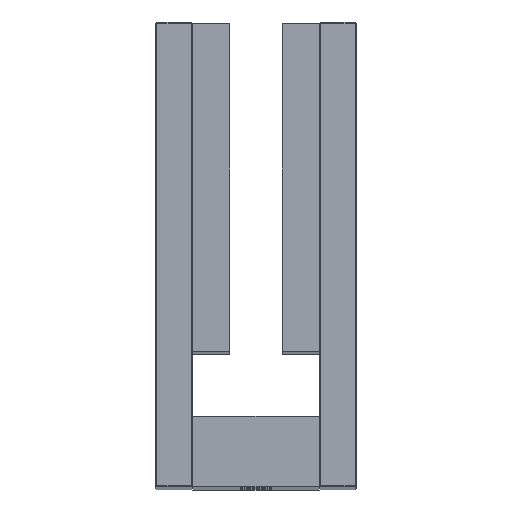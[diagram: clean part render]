
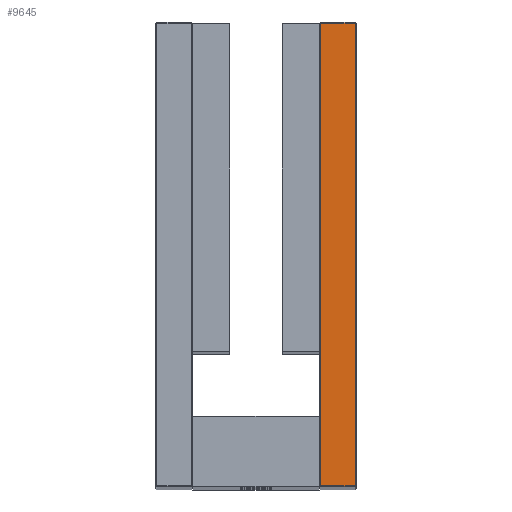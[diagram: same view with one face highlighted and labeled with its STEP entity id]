
A CAD part, top view. The second image highlights one B-rep face of the part: STEP entity #9645.
In plain terms, the highlighted planar face has unit normal (0, 0, 1) as drawn and (0, 1, 0) by its records, which use the part's own axes.
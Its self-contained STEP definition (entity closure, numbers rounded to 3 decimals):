
#378 = CARTESIAN_POINT ( 'NONE',  ( 124.7, 479.5, -0.3 ) ) ;
#808 = PLANE ( 'NONE',  #12586 ) ;
#1818 = EDGE_CURVE ( 'NONE', #21181, #7876, #9732, .T. ) ;
#1925 = CARTESIAN_POINT ( 'NONE',  ( 0.3, 479.5, 0. ) ) ;
#2812 = LINE ( 'NONE', #1925, #25280 ) ;
#3042 = DIRECTION ( 'NONE',  ( 0., 0., -1. ) ) ;
#3283 = DIRECTION ( 'NONE',  ( 0., 0., -1. ) ) ;
#3335 = CARTESIAN_POINT ( 'NONE',  ( 0.3, 479.5, -0.3 ) ) ;
#3930 = CARTESIAN_POINT ( 'NONE',  ( 0.3, 479.5, -9.7 ) ) ;
#4252 = CARTESIAN_POINT ( 'NONE',  ( 0., 479.5, -0.3 ) ) ;
#5903 = CARTESIAN_POINT ( 'NONE',  ( 124.7, 479.5, -9.7 ) ) ;
#7876 = VERTEX_POINT ( 'NONE', #5903 ) ;
#8349 = LINE ( 'NONE', #4252, #13423 ) ;
#9645 = ADVANCED_FACE ( 'NONE', ( #12718 ), #808, .F. ) ;
#9732 = LINE ( 'NONE', #14109, #19274 ) ;
#10671 = DIRECTION ( 'NONE',  ( 0., 0., 1. ) ) ;
#11077 = EDGE_CURVE ( 'NONE', #17943, #18236, #2812, .T. ) ;
#12586 = AXIS2_PLACEMENT_3D ( 'NONE', #24709, #16084, #3042 ) ;
#12718 = FACE_OUTER_BOUND ( 'NONE', #16262, .T. ) ;
#13423 = VECTOR ( 'NONE', #28159, 1000. ) ;
#14109 = CARTESIAN_POINT ( 'NONE',  ( 124.7, 479.5, 0. ) ) ;
#16084 = DIRECTION ( 'NONE',  ( 0., -1., 0. ) ) ;
#16262 = EDGE_LOOP ( 'NONE', ( #26094, #24619, #17996, #16914 ) ) ;
#16914 = ORIENTED_EDGE ( 'NONE', *, *, #1818, .T. ) ;
#17943 = VERTEX_POINT ( 'NONE', #3930 ) ;
#17996 = ORIENTED_EDGE ( 'NONE', *, *, #22021, .T. ) ;
#18236 = VERTEX_POINT ( 'NONE', #3335 ) ;
#18291 = VECTOR ( 'NONE', #20790, 1000. ) ;
#19274 = VECTOR ( 'NONE', #3283, 1000. ) ;
#20790 = DIRECTION ( 'NONE',  ( -1., 0., 0. ) ) ;
#21181 = VERTEX_POINT ( 'NONE', #378 ) ;
#22021 = EDGE_CURVE ( 'NONE', #18236, #21181, #8349, .T. ) ;
#24619 = ORIENTED_EDGE ( 'NONE', *, *, #11077, .T. ) ;
#24709 = CARTESIAN_POINT ( 'NONE',  ( 0., 479.5, 0. ) ) ;
#24742 = LINE ( 'NONE', #27267, #18291 ) ;
#25280 = VECTOR ( 'NONE', #10671, 1000. ) ;
#26094 = ORIENTED_EDGE ( 'NONE', *, *, #27857, .T. ) ;
#27267 = CARTESIAN_POINT ( 'NONE',  ( 0., 479.5, -9.7 ) ) ;
#27857 = EDGE_CURVE ( 'NONE', #7876, #17943, #24742, .T. ) ;
#28159 = DIRECTION ( 'NONE',  ( 1., 0., 0. ) ) ;
